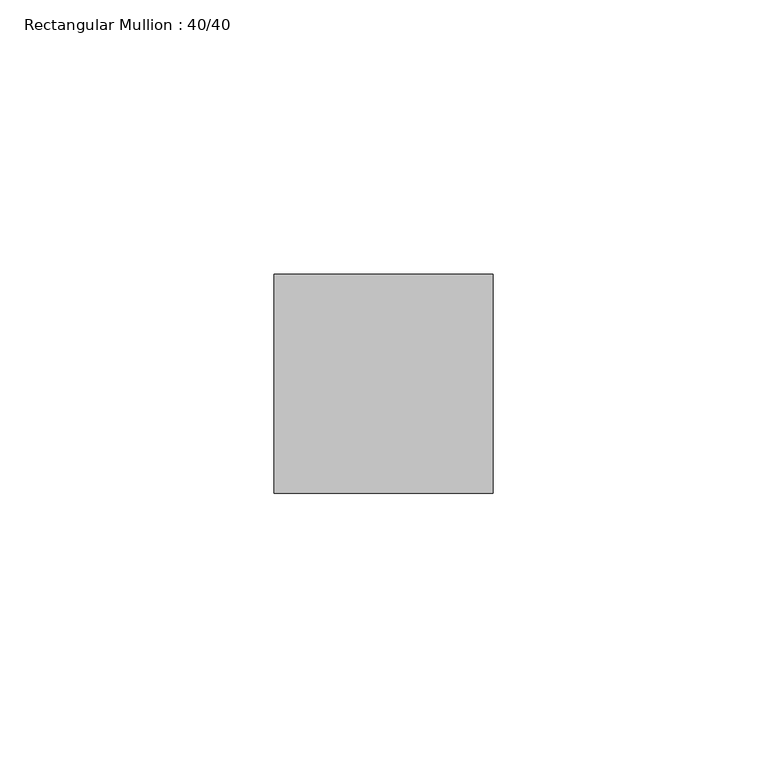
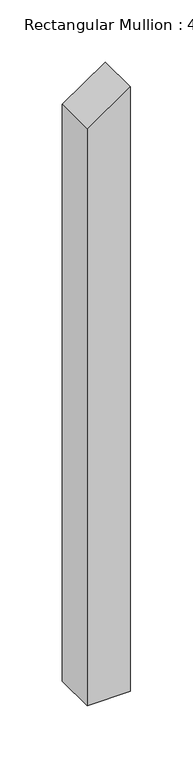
"""IFC4 building model written with IfcOpenShell, lengths in millimetres: member geometry, Rectangular Mullion : 40/40."""

from ifc_helpers import new_model, si_unit, frame, origin, place, context, project, spatial, polyline, outline, extrude, source, transform, mapped, element, save


def rectangular_mullion_40_40_78ab8ff1(model_context):
    return source(origin(), model_context, "Body", "SweptSolid", [
        extrude(outline(polyline([(0.0, 0.0), (-27.3853201, -40.0), (-592.613098, -40.0), (-592.613098, 0.0), (0.0, 0.0)])), frame((0.0, -20.0, 0.0), z_axis=(0.0, 1.0, 0.0), x_axis=(0.0, 0.0, 1.0)), (0.0, 0.0, 1.0), 40.0),
    ])


if __name__ == "__main__":
    model = new_model("IFC4")
    model_context = context("Model", 3, world=origin())
    ifc_project = project(units=[si_unit("LENGTHUNIT", "METRE", prefix="MILLI")], contexts=[model_context])
    site = spatial("IfcSite", under=ifc_project)
    building = spatial("IfcBuilding", under=site)
    placement = place(None, origin())
    rectangular_mullion_40_40_shape = rectangular_mullion_40_40_78ab8ff1(model_context)
    element("IfcMember", 1, ObjectType="Rectangular Mullion : 40/40", at=placement, inside=building, context=model_context, shape_type="MappedRepresentation", body=[
        mapped(rectangular_mullion_40_40_shape, transform((0.0, 0.0, 0.0), x_axis=(1.0, 0.0, 0.0), y_axis=(0.0, 1.0, 0.0), z_axis=(0.0, 0.0, 1.0))),
    ])
    save(model, "model.ifc")
